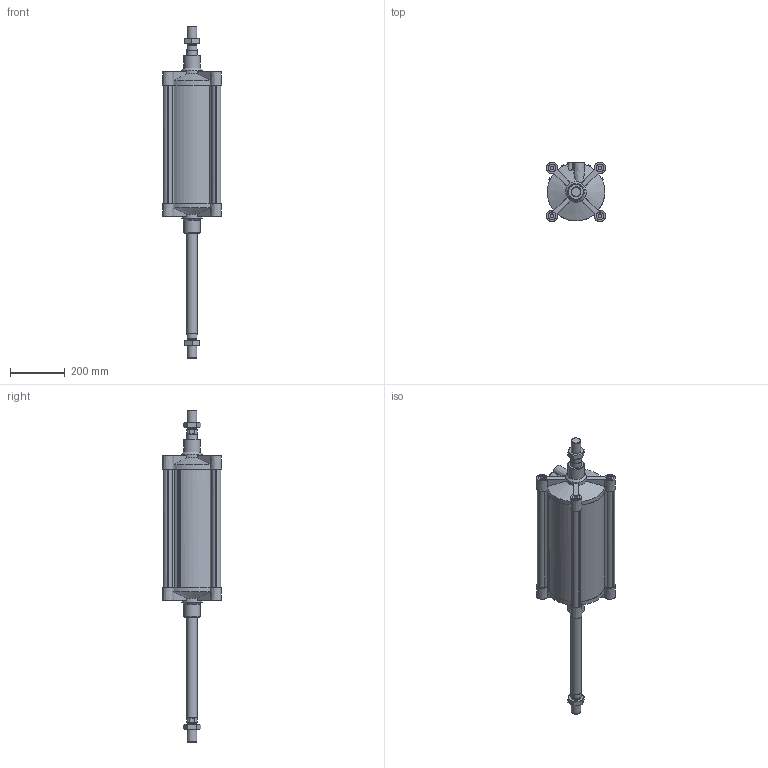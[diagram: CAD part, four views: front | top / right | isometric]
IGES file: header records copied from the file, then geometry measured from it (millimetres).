
Global section: file name: 139#_200_0350_02; native system: Autodesk Inventor 2014; preprocessor: unknown; author: F. Piloni; organization: Pneumax S.p.A.; date: 20151120.143238; units: millimetre
Bounding box: 216 x 216 x 1214 mm (x, y, z)
Volume: 9242433.4 mm3; surface area: 1456536.6 mm2
Topology: 6 solids, 6 shells, 324 faces, 844 edges, 567 vertices
Faces by surface type: bspline 324
